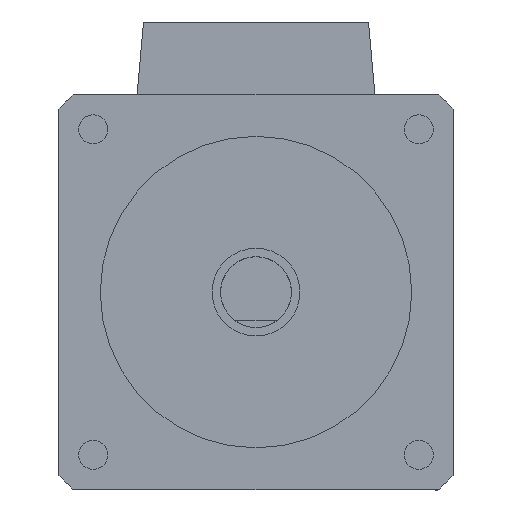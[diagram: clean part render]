
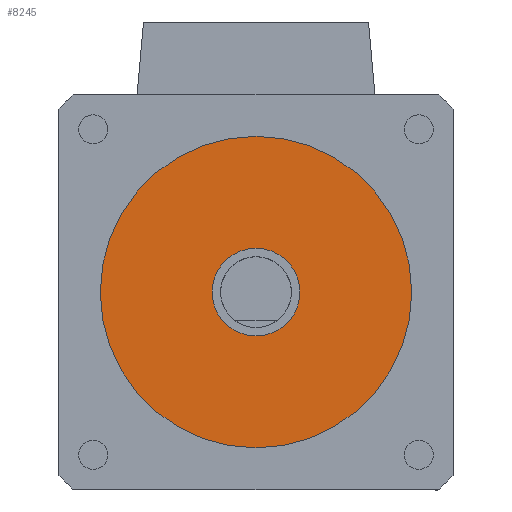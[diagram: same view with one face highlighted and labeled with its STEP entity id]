
A CAD part, front view. The second image highlights one B-rep face of the part: STEP entity #8245.
In plain terms, the highlighted planar face has unit normal (0, -1, 0) as drawn and (0, 1, 0) by its records, which use the part's own axes.
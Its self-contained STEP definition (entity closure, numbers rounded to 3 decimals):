
#224 = ORIENTED_EDGE ( 'NONE', *, *, #2396, .F. ) ;
#250 = EDGE_CURVE ( 'NONE', #1659, #6437, #12425, .T. ) ;
#690 = AXIS2_PLACEMENT_3D ( 'NONE', #9722, #13443, #2337 ) ;
#1048 = FACE_BOUND ( 'NONE', #13768, .T. ) ;
#1369 = ORIENTED_EDGE ( 'NONE', *, *, #250, .F. ) ;
#1659 = VERTEX_POINT ( 'NONE', #11695 ) ;
#1903 = ORIENTED_EDGE ( 'NONE', *, *, #15234, .T. ) ;
#1906 = DIRECTION ( 'NONE',  ( 0., 0., 1. ) ) ;
#2337 = DIRECTION ( 'NONE',  ( 0., 0., 1. ) ) ;
#2388 = CARTESIAN_POINT ( 'NONE',  ( 0., 8.5, 0. ) ) ;
#2396 = EDGE_CURVE ( 'NONE', #6437, #1659, #7668, .T. ) ;
#4394 = CARTESIAN_POINT ( 'NONE',  ( 0., 8.5, 11. ) ) ;
#4461 = AXIS2_PLACEMENT_3D ( 'NONE', #5475, #10414, #1906 ) ;
#4475 = DIRECTION ( 'NONE',  ( 0., 0., 1. ) ) ;
#4541 = PLANE ( 'NONE',  #690 ) ;
#4775 = FACE_OUTER_BOUND ( 'NONE', #10657, .T. ) ;
#5091 = DIRECTION ( 'NONE',  ( 0., 1., 0. ) ) ;
#5475 = CARTESIAN_POINT ( 'NONE',  ( 0., 8.5, 0. ) ) ;
#6045 = CIRCLE ( 'NONE', #8619, 11. ) ;
#6231 = VERTEX_POINT ( 'NONE', #7841 ) ;
#6437 = VERTEX_POINT ( 'NONE', #11060 ) ;
#6524 = CIRCLE ( 'NONE', #4461, 11. ) ;
#7668 = CIRCLE ( 'NONE', #12577, 3.1 ) ;
#7841 = CARTESIAN_POINT ( 'NONE',  ( 0., 8.5, -11. ) ) ;
#8245 = ADVANCED_FACE ( 'NONE', ( #1048, #4775 ), #4541, .T. ) ;
#8552 = DIRECTION ( 'NONE',  ( 0., 1., 0. ) ) ;
#8619 = AXIS2_PLACEMENT_3D ( 'NONE', #2388, #8552, #10984 ) ;
#9722 = CARTESIAN_POINT ( 'NONE',  ( 0., 8.5, 0. ) ) ;
#9914 = ORIENTED_EDGE ( 'NONE', *, *, #11509, .T. ) ;
#10347 = DIRECTION ( 'NONE',  ( 0., 0., 1. ) ) ;
#10414 = DIRECTION ( 'NONE',  ( 0., 1., 0. ) ) ;
#10657 = EDGE_LOOP ( 'NONE', ( #1903, #9914 ) ) ;
#10799 = VERTEX_POINT ( 'NONE', #4394 ) ;
#10984 = DIRECTION ( 'NONE',  ( 0., 0., 1. ) ) ;
#11060 = CARTESIAN_POINT ( 'NONE',  ( 0., 8.5, 3.1 ) ) ;
#11509 = EDGE_CURVE ( 'NONE', #10799, #6231, #6524, .T. ) ;
#11695 = CARTESIAN_POINT ( 'NONE',  ( 0., 8.5, -3.1 ) ) ;
#11756 = CARTESIAN_POINT ( 'NONE',  ( 0., 8.5, 0. ) ) ;
#12174 = AXIS2_PLACEMENT_3D ( 'NONE', #11756, #14283, #4475 ) ;
#12425 = CIRCLE ( 'NONE', #12174, 3.1 ) ;
#12577 = AXIS2_PLACEMENT_3D ( 'NONE', #14081, #5091, #10347 ) ;
#13443 = DIRECTION ( 'NONE',  ( 0., 1., 0. ) ) ;
#13768 = EDGE_LOOP ( 'NONE', ( #224, #1369 ) ) ;
#14081 = CARTESIAN_POINT ( 'NONE',  ( 0., 8.5, 0. ) ) ;
#14283 = DIRECTION ( 'NONE',  ( 0., 1., 0. ) ) ;
#15234 = EDGE_CURVE ( 'NONE', #6231, #10799, #6045, .T. ) ;
